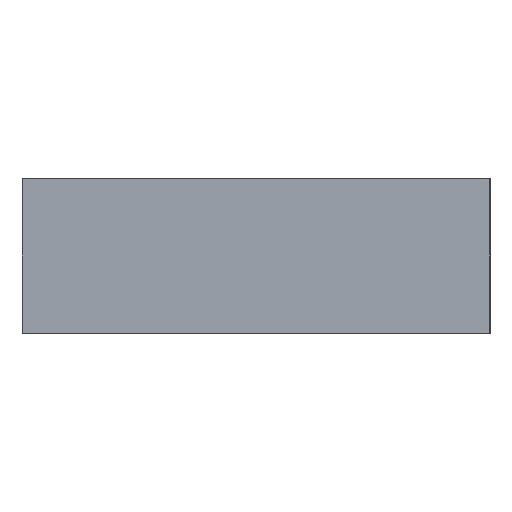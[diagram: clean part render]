
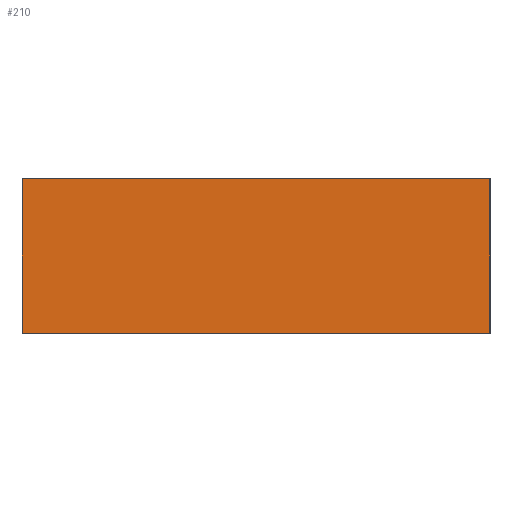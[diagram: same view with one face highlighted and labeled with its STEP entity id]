
A CAD part, left-side view. The second image highlights one B-rep face of the part: STEP entity #210.
In plain terms, the highlighted planar face has unit normal (-1, 0, 0).
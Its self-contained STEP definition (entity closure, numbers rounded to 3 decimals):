
#44=ORIENTED_EDGE('',*,*,#92,.F.);
#45=ORIENTED_EDGE('',*,*,#91,.F.);
#46=ORIENTED_EDGE('',*,*,#93,.T.);
#47=ORIENTED_EDGE('',*,*,#94,.T.);
#91=EDGE_CURVE('',#113,#112,#134,.T.);
#92=EDGE_CURVE('',#112,#114,#135,.T.);
#93=EDGE_CURVE('',#113,#115,#136,.T.);
#94=EDGE_CURVE('',#115,#114,#137,.T.);
#112=VERTEX_POINT('',#326);
#113=VERTEX_POINT('',#328);
#114=VERTEX_POINT('',#332);
#115=VERTEX_POINT('',#334);
#134=LINE('',#329,#158);
#135=LINE('',#331,#159);
#136=LINE('',#333,#160);
#137=LINE('',#335,#161);
#158=VECTOR('',#271,1000.);
#159=VECTOR('',#274,1000.);
#160=VECTOR('',#275,1000.);
#161=VECTOR('',#276,1000.);
#173=EDGE_LOOP('',(#44,#45,#46,#47));
#187=FACE_BOUND('',#173,.T.);
#200=PLANE('',#235);
#210=ADVANCED_FACE('',(#187),#200,.T.);
#235=AXIS2_PLACEMENT_3D('',#330,#272,#273);
#271=DIRECTION('',(0.,-1.,0.));
#272=DIRECTION('',(-1.,0.,0.));
#273=DIRECTION('',(0.,0.,1.));
#274=DIRECTION('',(0.,0.,-1.));
#275=DIRECTION('',(0.,0.,-1.));
#276=DIRECTION('',(0.,-1.,0.));
#326=CARTESIAN_POINT('',(-6.5,0.,3.3));
#328=CARTESIAN_POINT('',(-6.5,10.,3.3));
#329=CARTESIAN_POINT('',(-6.5,10.,3.3));
#330=CARTESIAN_POINT('',(-6.5,10.,3.3));
#331=CARTESIAN_POINT('',(-6.5,0.,3.3));
#332=CARTESIAN_POINT('',(-6.5,0.,0.));
#333=CARTESIAN_POINT('',(-6.5,10.,3.3));
#334=CARTESIAN_POINT('',(-6.5,10.,0.));
#335=CARTESIAN_POINT('',(-6.5,10.,0.));
